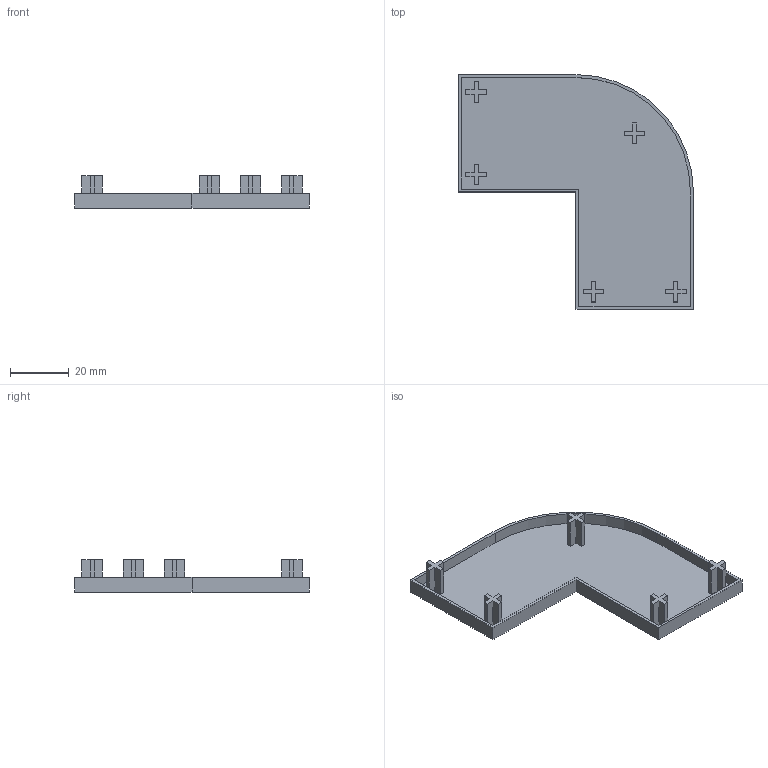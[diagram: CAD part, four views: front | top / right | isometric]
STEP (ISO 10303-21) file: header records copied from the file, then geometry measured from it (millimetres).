
FILE_DESCRIPTION (( 'STEP AP203' ), '1' );
FILE_NAME ('184-CE-CP-8840R.STEP', '2015-07-09T09:17:57', ( '' ), ( '' ), 'SwSTEP 2.0', 'SolidWorks 2013', '' );
FILE_SCHEMA (( 'CONFIG_CONTROL_DESIGN' ));
Length unit declared in the file: millimetre
Products named in the file (1): 184-CE-CP-8840R
Bounding box: 80 x 80 x 11 mm (x, y, z)
Volume: 6590.3 mm3; surface area: 13008.5 mm2
Topology: 1 solids, 1 shells, 82 faces, 222 edges, 148 vertices
Faces by surface type: plane 80, cylinder 2
Entity records: 2607 total; most frequent: CARTESIAN_POINT 453, ORIENTED_EDGE 444, DIRECTION 392, EDGE_CURVE 222, VECTOR 218, LINE 218, VERTEX_POINT 148, EDGE_LOOP 88
